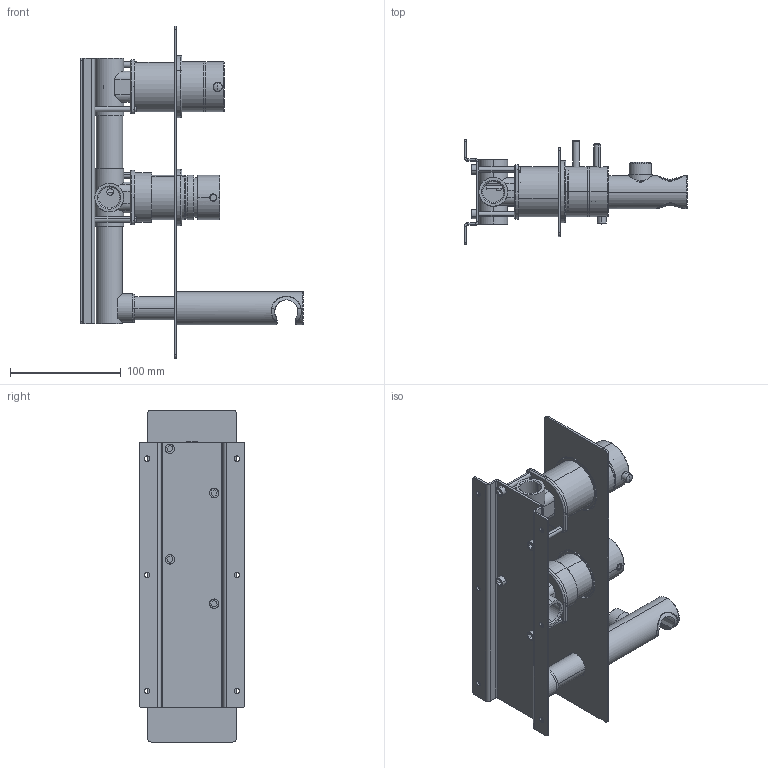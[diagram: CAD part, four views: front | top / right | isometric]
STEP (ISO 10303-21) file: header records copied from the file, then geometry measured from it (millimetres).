
FILE_DESCRIPTION (( 'STEP AP203' ), '1' );
FILE_NAME ('ETM4N.STEP', '2024-02-02T14:10:20', ( '' ), ( '' ), 'SwSTEP 2.0', 'SolidWorks 2023', '' );
FILE_SCHEMA (( 'CONFIG_CONTROL_DESIGN' ));
Length unit declared in the file: millimetre
Products named in the file (49): C12.00.0017; ADATTATORE MEZZO; C47.00.0023.01; TUBO DI GIUNZIONE VASCA E DOCCIA; EU1173_0; 1174; C11.14.0007; C25.2691.00; AS757_00; C24.1965.00.0; C24.1455.00.0; AS855_00; C24.1457.00.2; C12.00.0011; OR4569262NBR; C47.00.0020.01; C24.1966.00.0; EU1993_0; C47.00.0121.0; EU1456_0; C12.00.0008; OR3934262ACS; C24.2086.00.0; EU1995_0; ETM4N; C25.1173.00.0; C23.1878.01; 1174G; EU0615_0; C47.00.0015; C25.0791.00.1; 405-40CPA GEDA; EROGATORE VASCA E DOCCIA; IST81; C11.14.0009; C11.14.0013; C25.0814.00.0; C11.14.0008; C10.00.0017; AS535_00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
Assembly tree (54 placements, depth 4):
  ETM4N
    IST81
      405-40CPA GEDA
        1174G
        EROGATORE VASCA E DOCCIA
        TUBO DI GIUNZIONE VASCA E DOCCIA
        1174
        ADATTATORE MEZZO
      C24.1966.00.0
      C25.1964.00.0
      C12.00.0008
      C12.00.0017  x2
      1000
      C47.00.0015
      C24.1965.00.0
      C10.00.0011
      VITETC5x40  x4
      C10.00.0017
      C24.1455.00.0
      C47.00.0020.01
    AS757_00
      C24.1992.00.0
      C25.1173.00.0
      C23.1878.01
      C11.14.0009
      C11.14.0007
      C47.00.0023.01
    EU1456_0
    FERMO38
    EU0620_0
    EU0615_0
    AS535_00
      C24.1457.00.2
      C25.0814.00.0
      C11.14.0013
      C11.14.0009
      C47.00.0023.01
      C47.00.0076.00
    OR4569262NBR
    OR3934262ACS
    EU1993_0
    EU1173_0
    EU1995_0
    EU1996_0
    C25.2691.00
    AS855_00
      C24.2086.00.0
      C47.00.0121.0
      C25.0791.00.1
      C12.00.0011
      C11.14.0008
Bounding box: 201.5 x 95 x 300 mm (x, y, z)
Volume: 485331.5 mm3; surface area: 298471.5 mm2
Topology: 55 solids, 55 shells, 2673 faces, 6751 edges, 4315 vertices
Faces by surface type: plane 1253, cylinder 940, cone 276, bspline 103, torus 99, sphere 2
Entity records: 91725 total; most frequent: CARTESIAN_POINT 24189, DIRECTION 13098, ORIENTED_EDGE 12976, EDGE_CURVE 6488, AXIS2_PLACEMENT_3D 4839, VERTEX_POINT 4159, LINE 3420, VECTOR 3420
